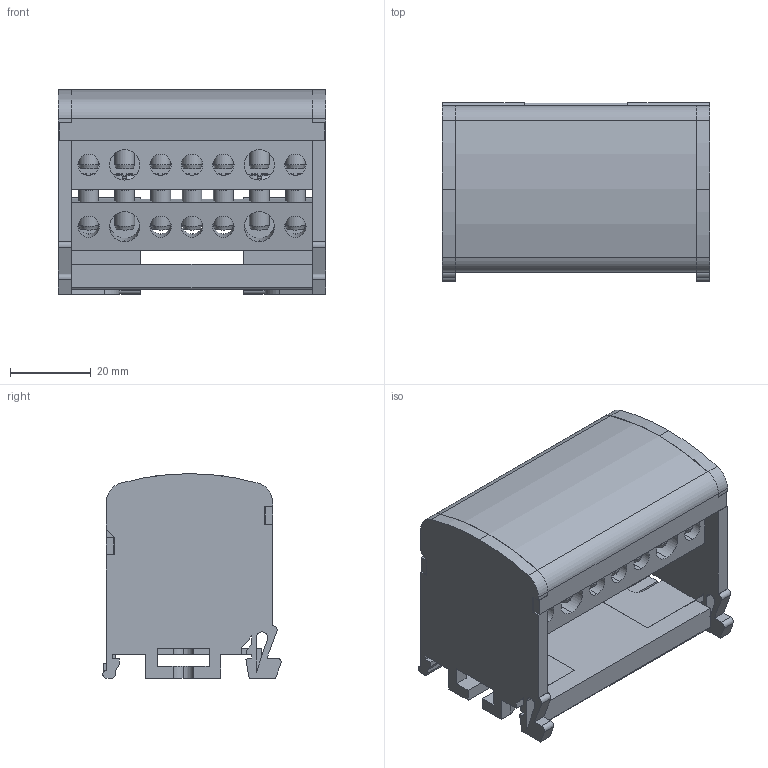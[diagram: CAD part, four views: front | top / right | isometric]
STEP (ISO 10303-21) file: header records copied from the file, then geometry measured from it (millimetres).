
FILE_DESCRIPTION (( 'STEP AP203' ), '1' );
FILE_NAME ('sn0-2x7 Øèíà íóëåâàÿ â êîðïóñå (2õ7).STEP', '2017-02-25T13:11:19', ( '' ), ( '' ), 'SwSTEP 2.0', 'SolidWorks 2010', '' );
FILE_SCHEMA (( 'CONFIG_CONTROL_DESIGN' ));
Length unit declared in the file: millimetre
Products named in the file (1): sn0-2x7 Øèíà íóëåâàÿ â êîðïóñå (2õ7)
Bounding box: 66.1 x 44.07 x 50.6 mm (x, y, z)
Volume: 35700.4 mm3; surface area: 36049.7 mm2
Topology: 20 solids, 20 shells, 677 faces, 1853 edges, 1194 vertices
Faces by surface type: plane 436, cylinder 157, torus 56, cone 28
Entity records: 22400 total; most frequent: CARTESIAN_POINT 4865, ORIENTED_EDGE 3706, DIRECTION 3591, EDGE_CURVE 1853, LINE 1247, VECTOR 1247, VERTEX_POINT 1194, AXIS2_PLACEMENT_3D 1172
